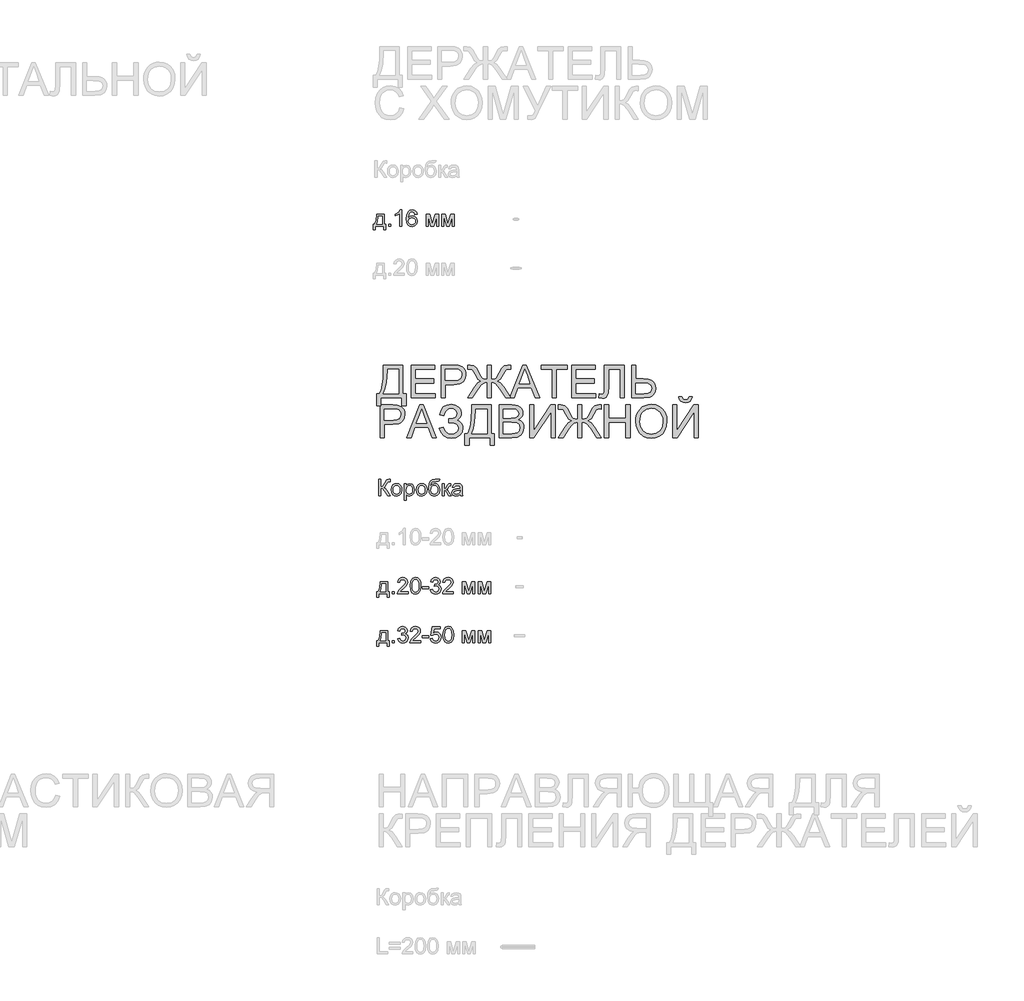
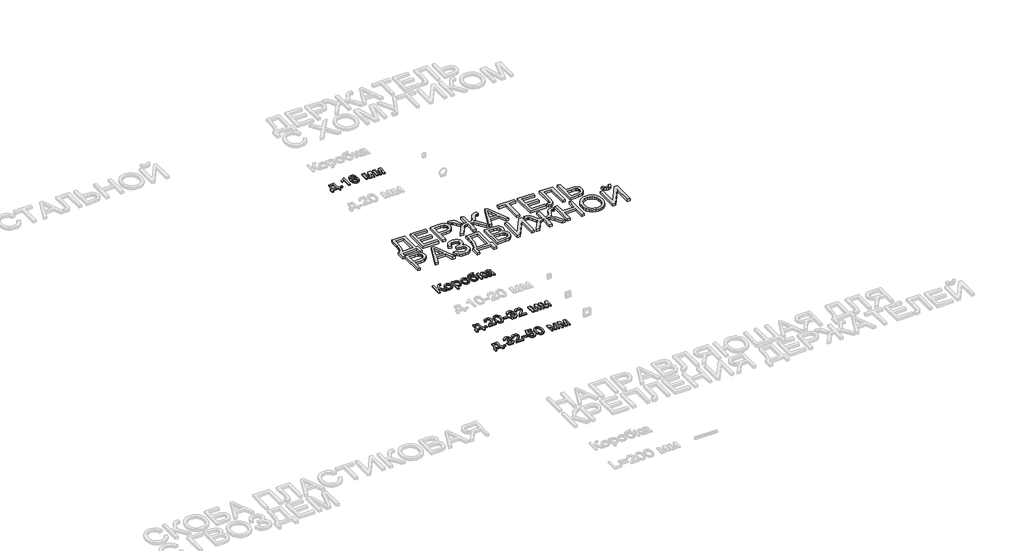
# One storey, part 50 of 98: 5 proxies.
"""IFC4 building model written with IfcOpenShell, lengths in millimetres."""

from ifc_helpers import new_model, si_unit, origin, origin_with_axes, place, context, project, spatial, polyline, outline, extrude, element, save

model = new_model("IFC4")

# Units and contexts
model_context = context("Model", 3, world=origin())
ifc_project = project(units=[si_unit("LENGTHUNIT", "METRE", prefix="MILLI")], contexts=[model_context])

# Site, building, storey
site = spatial("IfcSite", under=ifc_project)
building = spatial("IfcBuilding", under=site)
storey = spatial("IfcBuildingStorey", under=building, Name="Этаж 01", Elevation=0.0)

# Proxies
placement = place(None, origin())
element("IfcBuildingElementProxy", 1, Name="100", ObjectType="100", at=placement, inside=storey, context=model_context, shape_type="SweptSolid", body=[
    extrude(outline(polyline([(16047.255874, -32386.9576813), (16094.3447694, -32386.9576813), (16094.3447694, -32448.1732453), (16103.7625484, -32448.1732453), (16103.7625484, -32481.1354721), (16091.2055097, -32481.1354721), (16091.2055097, -32460.7302841), (16039.4077248, -32460.7302841), (16039.4077248, -32481.1354721), (16026.850686, -32481.1354721), (16026.850686, -32448.1732453), (16034.6988352, -32448.1732453), (16044.3986572, -32424.2241274), (16047.255874, -32386.9576813)]), holes=[polyline([(16058.2432829, -32399.5147201), (16055.3002269, -32428.1236765), (16048.8255038, -32448.1732453), (16081.7877306, -32448.1732453), (16081.7877306, -32399.5147201), (16058.2432829, -32399.5147201)])]), origin_with_axes(), (0.0, 0.0, 1.0), 10.0),
    extrude(outline(polyline([(16121.0284767, -32460.7302841), (16121.0284767, -32448.1732453), (16133.5855155, -32448.1732453), (16133.5855155, -32460.7302841), (16121.0284767, -32460.7302841)])), origin_with_axes(), (0.0, 0.0, 1.0), 10.0),
    extrude(outline(polyline([(16201.0795989, -32460.7302841), (16188.5225601, -32460.7302841), (16188.5225601, -32382.4449955), (16176.627709, -32390.9185441), (16163.4084826, -32397.2583771), (16163.4084826, -32385.3880514), (16181.8148451, -32373.6403531), (16192.986195, -32360.2739739), (16201.0795989, -32360.2739739), (16201.0795989, -32460.7302841)])), origin_with_axes(), (0.0, 0.0, 1.0), 10.0),
    extrude(outline(polyline([(16295.2573897, -32386.9576813), (16282.7003509, -32388.5273111), (16277.9424104, -32378.054937), (16265.3608462, -32372.8310127), (16254.0300807, -32375.8721705), (16245.4584302, -32387.2887751), (16241.8899749, -32409.6682631), (16252.963223, -32399.6496101), (16266.6852214, -32396.3754604), (16278.285767, -32398.6134092), (16288.0223771, -32405.3272556), (16294.6258589, -32415.5850319), (16296.8270195, -32428.4547703), (16292.6822157, -32445.7820123), (16281.2778738, -32458.0447455), (16264.8212859, -32462.2999139), (16250.5750557, -32459.4794853), (16239.2289618, -32451.0181994), (16231.8069425, -32436.0821904), (16229.3329361, -32413.8375924), (16232.0797884, -32388.8277481), (16240.3203451, -32371.7273667), (16251.5714027, -32363.1373221), (16266.1456611, -32360.2739739), (16277.1637269, -32362.0459388), (16285.9867634, -32367.3618337), (16292.1671809, -32375.8047255), (16295.2573897, -32386.9576813)]), holes=[polyline([(16241.8899749, -32428.2585666), (16244.7962427, -32439.1356109), (16252.5217646, -32447.0328111), (16263.8402673, -32449.7428751), (16272.1268092, -32448.3387922), (16278.6413862, -32444.1265433), (16282.8628321, -32437.5046674), (16284.2699807, -32428.8717033), (16282.8812262, -32420.5851613), (16278.7149626, -32414.2667881), (16272.090021, -32410.2660714), (16263.3252325, -32408.9324991), (16248.1317061, -32414.2667881), (16243.4504077, -32420.4318772), (16241.8899749, -32428.2585666)])]), origin_with_axes(), (0.0, 0.0, 1.0), 10.0),
    extrude(outline(polyline([(16350.1944343, -32386.9576813), (16371.8013701, -32386.9576813), (16388.4541618, -32446.0150042), (16406.4068031, -32386.9576813), (16427.1062967, -32386.9576813), (16427.1062967, -32460.7302841), (16414.549258, -32460.7302841), (16414.549258, -32401.3296046), (16396.4985147, -32460.7302841), (16380.0174014, -32460.7302841), (16362.751473, -32398.4846505), (16362.751473, -32460.7302841), (16350.1944343, -32460.7302841), (16350.1944343, -32386.9576813)])), origin_with_axes(), (0.0, 0.0, 1.0), 10.0),
    extrude(outline(polyline([(16445.9418549, -32386.9576813), (16467.5487907, -32386.9576813), (16484.2015824, -32446.0150042), (16502.1542238, -32386.9576813), (16522.8537173, -32386.9576813), (16522.8537173, -32460.7302841), (16510.2966786, -32460.7302841), (16510.2966786, -32401.3296046), (16492.2459353, -32460.7302841), (16475.764822, -32460.7302841), (16458.4988937, -32398.4846505), (16458.4988937, -32460.7302841), (16445.9418549, -32460.7302841), (16445.9418549, -32386.9576813)])), origin_with_axes(), (0.0, 0.0, 1.0), 10.0),
])
element("IfcBuildingElementProxy", 2, Name="100", ObjectType="100", at=placement, inside=storey, context=model_context, shape_type="SweptSolid", body=[
    extrude(outline(polyline([(16059.8107089, -34010.4960013), (16072.3677477, -34010.4960013), (16072.3677477, -34054.445637), (16086.4085771, -34051.1224363), (16096.2065009, -34034.3102292), (16103.1349452, -34020.2693997), (16110.9830944, -34013.31643), (16122.2034953, -34010.4960013), (16130.444052, -34010.6431541), (16130.444052, -34023.2001929), (16127.6726743, -34023.1266165), (16124.9012966, -34023.0530401), (16115.09111, -34026.0696725), (16107.6353683, -34038.9945932), (16098.7448867, -34054.7399426), (16090.0751344, -34059.9393415), (16099.7688249, -34065.6169869), (16109.3276254, -34077.4505245), (16130.444052, -34110.9523115), (16115.875925, -34110.9523115), (16098.0213855, -34082.6499233), (16085.4520839, -34067.8733299), (16072.3677477, -34063.8634161), (16072.3677477, -34110.9523115), (16059.8107089, -34110.9523115), (16059.8107089, -34010.4960013)])), origin_with_axes(), (0.0, 0.0, 1.0), 10.0),
    extrude(outline(polyline([(16136.7225713, -34074.0660101), (16139.4387667, -34056.2789156), (16147.5873529, -34043.7770592), (16157.6550569, -34037.6518239), (16169.7093236, -34035.6100789), (16182.9009588, -34038.096348), (16193.4377123, -34045.5551555), (16200.3446967, -34057.39789), (16202.6470249, -34073.0359405), (16198.5757975, -34095.3786404), (16186.7177345, -34108.0215183), (16169.7093236, -34112.5219413), (16156.3582728, -34110.0448692), (16145.8337821, -34102.6136529), (16139.000374, -34090.522598), (16136.7225713, -34074.0660101)]), holes=[polyline([(16149.2796101, -34074.0414846), (16150.732744, -34085.4059726), (16155.0921456, -34093.5024422), (16161.6527079, -34098.3492875), (16169.7093236, -34099.9649026), (16177.7291511, -34098.3400904), (16184.2774506, -34093.465654), (16188.6368522, -34085.2618855), (16190.0899861, -34073.6490772), (16188.6276552, -34062.615683), (16184.2406624, -34054.629578), (16177.6831658, -34049.7827327), (16169.7093236, -34048.1671176), (16161.6527079, -34049.7766014), (16155.0921456, -34054.6050526), (16150.732744, -34062.683128), (16149.2796101, -34074.0414846)])]), origin_with_axes(), (0.0, 0.0, 1.0), 10.0),
    extrude(outline(polyline([(16216.7736935, -34139.2056487), (16216.7736935, -34037.1797087), (16229.3307323, -34037.1797087), (16229.3307323, -34049.4914928), (16238.0127473, -34039.0804324), (16249.7359203, -34035.6100789), (16265.6529479, -34040.4661212), (16276.0517457, -34054.1513314), (16279.5588873, -34073.5019244), (16275.5980245, -34093.8457987), (16264.0955808, -34107.7026872), (16248.2153413, -34112.5219413), (16237.2892461, -34109.2968425), (16229.3307323, -34101.142125), (16229.3307323, -34139.2056487), (16216.7736935, -34139.2056487)]), holes=[polyline([(16229.3307323, -34074.6546213), (16230.68883, -34085.9118104), (16234.7631231, -34093.784485), (16240.774928, -34098.4197982), (16247.9455612, -34099.9649026), (16255.2326904, -34098.3646159), (16261.3977795, -34093.5637559), (16265.6008313, -34085.4029069), (16267.0018486, -34073.7226536), (16265.6345538, -34062.5267782), (16261.5326696, -34054.5437389), (16255.5300617, -34049.761273), (16248.460596, -34048.1671176), (16241.3635392, -34049.8624405), (16235.1310051, -34054.9484091), (16230.7808005, -34063.2656079), (16229.3307323, -34074.6546213)])]), origin_with_axes(), (0.0, 0.0, 1.0), 10.0),
    extrude(outline(polyline([(16290.5462963, -34074.0660101), (16293.2624917, -34056.2789156), (16301.4110779, -34043.7770592), (16311.4787818, -34037.6518239), (16323.5330485, -34035.6100789), (16336.7246837, -34038.096348), (16347.2614372, -34045.5551555), (16354.1684216, -34057.39789), (16356.4707498, -34073.0359405), (16352.3995224, -34095.3786404), (16340.5414594, -34108.0215183), (16323.5330485, -34112.5219413), (16310.1819978, -34110.0448692), (16299.657507, -34102.6136529), (16292.8240989, -34090.522598), (16290.5462963, -34074.0660101)]), holes=[polyline([(16303.103335, -34074.0414846), (16304.5564689, -34085.4059726), (16308.9158706, -34093.5024422), (16315.4764328, -34098.3492875), (16323.5330485, -34099.9649026), (16331.552876, -34098.3400904), (16338.1011755, -34093.465654), (16342.4605771, -34085.2618855), (16343.913711, -34073.6490772), (16342.4513801, -34062.615683), (16338.0643873, -34054.629578), (16331.5068907, -34049.7827327), (16323.5330485, -34048.1671176), (16315.4764328, -34049.7766014), (16308.9158706, -34054.6050526), (16304.5564689, -34062.683128), (16303.103335, -34074.0414846)])]), origin_with_axes(), (0.0, 0.0, 1.0), 10.0),
    extrude(outline(polyline([(16422.3952033, -34008.9263715), (16433.3826123, -34008.9263715), (16430.1452507, -34018.7242953), (16423.744104, -34022.2682252), (16408.3666366, -34023.0530401), (16387.6548803, -34025.9470451), (16379.7086292, -34035.2176714), (16377.0230906, -34051.6252084), (16387.9001349, -34039.6077299), (16401.9164389, -34035.6100789), (16414.9823811, -34038.1515303), (16425.583514, -34045.7758847), (16432.6100601, -34057.7351152), (16434.9522421, -34073.2811952), (16430.3046662, -34094.888131), (16419.2804691, -34107.9234164), (16401.9164389, -34112.5219413), (16390.5826078, -34111.0412163), (16382.0875994, -34106.5990412), (16371.2350805, -34091.442303), (16367.4581587, -34059.2771539), (16369.8401946, -34035.1839489), (16376.9863024, -34020.4901289), (16389.0742916, -34012.9945332), (16406.2819719, -34010.4960013), (16420.2614878, -34010.2139585), (16422.3952033, -34008.9263715)]), holes=[polyline([(16422.3952033, -34072.8887877), (16421.0340399, -34063.0080905), (16416.9505498, -34055.0955619), (16410.3899876, -34049.8992287), (16401.5976079, -34048.1671176), (16392.4312148, -34049.9973306), (16385.6315293, -34055.4879693), (16381.4192804, -34064.0381601), (16380.0151975, -34075.0470288), (16381.5664332, -34085.7186723), (16386.2201405, -34093.5514931), (16393.1485847, -34098.3615502), (16401.5240315, -34099.9649026), (16409.9423978, -34098.1101642), (16416.6071933, -34092.545949), (16420.9482008, -34083.9221819), (16422.3952033, -34072.8887877)])]), origin_with_axes(), (0.0, 0.0, 1.0), 10.0),
    extrude(outline(polyline([(16450.6485406, -34037.1797087), (16463.2055793, -34037.1797087), (16463.2055793, -34068.5723056), (16471.6178143, -34066.3159627), (16478.5094703, -34053.1703128), (16484.2361667, -34041.8272846), (16489.2884128, -34038.1362019), (16498.4731999, -34037.1797087), (16500.8766956, -34037.1797087), (16500.8766956, -34049.8103239), (16497.4921813, -34049.7367475), (16491.3608147, -34051.0611227), (16487.0443326, -34059.3262048), (16481.9798238, -34068.2657373), (16474.8797013, -34072.6435331), (16482.8014269, -34077.5302322), (16490.5759998, -34087.8247967), (16504.0159553, -34110.9523115), (16489.7421339, -34110.9523115), (16476.5719585, -34088.3153061), (16469.9500826, -34078.7381114), (16463.2055793, -34076.4204549), (16463.2055793, -34110.9523115), (16450.6485406, -34110.9523115), (16450.6485406, -34037.1797087)])), origin_with_axes(), (0.0, 0.0, 1.0), 10.0),
    extrude(outline(polyline([(16558.9529999, -34101.5345324), (16546.7761059, -34110.0448692), (16533.3238876, -34112.5219413), (16522.8300537, -34111.0320193), (16515.0892034, -34106.562253), (16510.3159345, -34099.7748302), (16508.7248449, -34091.3319384), (16511.1283406, -34081.3991245), (16517.4436482, -34074.1886374), (16526.2360278, -34070.0683591), (16537.1008094, -34068.1798982), (16558.8794235, -34063.8634161), (16558.9529999, -34061.0675129), (16555.4949092, -34051.7968867), (16541.6134952, -34048.1671176), (16528.9093037, -34050.5828761), (16522.8515135, -34059.1545266), (16510.2944747, -34057.5848967), (16515.7268655, -34045.3221635), (16526.6652235, -34038.1362019), (16543.232176, -34035.6100789), (16558.4502279, -34037.8418963), (16567.0464038, -34043.4459654), (16570.8969021, -34051.9685649), (16571.5100387, -34062.9559739), (16571.5100387, -34078.5786959), (16572.1477008, -34100.3940982), (16574.6492984, -34110.9523115), (16562.0922596, -34110.9523115), (16558.9529999, -34101.5345324)]), holes=[polyline([(16558.9529999, -34076.4204549), (16538.6949647, -34080.2709531), (16527.8914968, -34082.3065668), (16522.9986663, -34085.6175048), (16521.2818836, -34090.4490216), (16525.0220173, -34097.2425758), (16535.9971634, -34099.9649026), (16548.701355, -34096.9605329), (16556.8928608, -34089.6887322), (16558.8794235, -34079.9766475), (16558.9529999, -34076.4204549)])]), origin_with_axes(), (0.0, 0.0, 1.0), 10.0),
])
element("IfcBuildingElementProxy", 3, Name="100", ObjectType="100", at=placement, inside=storey, context=model_context, shape_type="SweptSolid", body=[
    extrude(outline(polyline([(16069.228488, -34637.1797087), (16116.3173833, -34637.1797087), (16116.3173833, -34698.3952727), (16125.7351624, -34698.3952727), (16125.7351624, -34731.3574995), (16113.1781237, -34731.3574995), (16113.1781237, -34710.9523115), (16061.3803387, -34710.9523115), (16061.3803387, -34731.3574995), (16048.8233, -34731.3574995), (16048.8233, -34698.3952727), (16056.6714492, -34698.3952727), (16066.3712711, -34674.4461548), (16069.228488, -34637.1797087)]), holes=[polyline([(16080.2158969, -34649.7367475), (16077.2728409, -34678.345704), (16070.7981178, -34698.3952727), (16103.7603446, -34698.3952727), (16103.7603446, -34649.7367475), (16080.2158969, -34649.7367475)])]), origin_with_axes(), (0.0, 0.0, 1.0), 10.0),
    extrude(outline(polyline([(16143.0010907, -34710.9523115), (16143.0010907, -34698.3952727), (16155.5581295, -34698.3952727), (16155.5581295, -34710.9523115), (16143.0010907, -34710.9523115)])), origin_with_axes(), (0.0, 0.0, 1.0), 10.0),
    extrude(outline(polyline([(16240.3181412, -34698.3952727), (16240.3181412, -34710.9523115), (16174.3936877, -34710.9523115), (16175.7425883, -34702.2948219), (16183.3700083, -34688.9652309), (16199.0908323, -34674.4093666), (16220.7713445, -34653.4891438), (16226.1914726, -34639.2643734), (16221.0779128, -34627.7496669), (16207.7237964, -34623.0530401), (16193.8055943, -34627.6393023), (16188.5203563, -34640.3189684), (16175.9633175, -34638.7493386), (16179.007541, -34626.6031014), (16185.589563, -34617.7310139), (16195.3660271, -34612.3047545), (16207.9935765, -34610.4960013), (16220.7130965, -34612.5070896), (16230.4711664, -34618.5403543), (16236.6791751, -34627.5534632), (16238.7485113, -34638.5040839), (16236.5166939, -34650.4111978), (16229.0977403, -34662.7229819), (16211.1083108, -34679.9275966), (16196.6628111, -34692.0063887), (16190.9974284, -34698.3952727), (16240.3181412, -34698.3952727)])), origin_with_axes(), (0.0, 0.0, 1.0), 10.0),
    extrude(outline(polyline([(16252.87518, -34661.5334968), (16256.5662626, -34632.6302347), (16267.5291461, -34615.9651803), (16285.8374067, -34610.4960013), (16300.5036356, -34613.7333629), (16310.6326532, -34623.0653028), (16316.5187651, -34637.9277354), (16318.7996335, -34661.5334968), (16315.145339, -34690.3141316), (16304.2192437, -34707.0159741), (16295.9878841, -34711.1454495), (16285.8374067, -34712.5219413), (16272.7898586, -34710.1307084), (16262.8815702, -34702.9570095), (16255.3767775, -34685.9669926), (16252.87518, -34661.5334968)]), holes=[polyline([(16265.4322187, -34661.5089713), (16266.9037467, -34681.2611688), (16271.3183306, -34692.6931018), (16277.8911556, -34698.1469524), (16285.8374067, -34699.9649026), (16293.7836578, -34698.140821), (16300.3564828, -34692.6685763), (16304.7710667, -34681.230512), (16306.2425947, -34661.5089713), (16304.8201177, -34642.201298), (16300.5526865, -34630.6804601), (16293.9921243, -34624.9598951), (16285.6902539, -34623.0530401), (16277.829842, -34624.7330346), (16271.5145344, -34629.7730179), (16266.9527976, -34642.0112256), (16265.4322187, -34661.5089713)])]), origin_with_axes(), (0.0, 0.0, 1.0), 10.0),
    extrude(outline(polyline([(16326.6477827, -34681.1293444), (16326.6477827, -34668.5723056), (16365.8885289, -34668.5723056), (16365.8885289, -34681.1293444), (16326.6477827, -34681.1293444)])), origin_with_axes(), (0.0, 0.0, 1.0), 10.0),
    extrude(outline(polyline([(16376.8759378, -34684.2686041), (16389.4329766, -34682.6989743), (16396.3614208, -34695.9182006), (16409.3231298, -34699.9649026), (16417.9315685, -34698.5730824), (16424.5779698, -34694.3976217), (16430.2433526, -34680.6143096), (16424.6270208, -34667.6280752), (16410.3531994, -34662.48999), (16401.5485569, -34663.8634161), (16402.9465085, -34651.3063773), (16404.9575968, -34651.4535301), (16419.2068927, -34647.8482866), (16423.9525704, -34643.2742871), (16425.534463, -34636.7627758), (16420.9482008, -34626.9403265), (16409.126926, -34623.0530401), (16397.1584985, -34626.9771147), (16391.0026064, -34638.7493386), (16378.4455676, -34637.1797087), (16382.1427817, -34625.9041256), (16388.721738, -34617.4857592), (16397.7225842, -34612.2434408), (16408.6854676, -34610.4960013), (16423.8299431, -34613.9418294), (16434.4249446, -34623.3596084), (16438.0915018, -34636.0270118), (16434.6088856, -34647.6030319), (16424.3081897, -34655.917165), (16437.9933999, -34664.5010782), (16442.8003913, -34680.8350388), (16440.3968956, -34693.0732465), (16433.1864085, -34703.300366), (16422.3032328, -34710.2165475), (16408.8816714, -34712.5219413), (16396.7415655, -34710.5537727), (16386.8578026, -34704.6492666), (16379.9845407, -34695.6177637), (16376.8759378, -34684.2686041)])), origin_with_axes(), (0.0, 0.0, 1.0), 10.0),
    extrude(outline(polyline([(16518.1426239, -34698.3952727), (16518.1426239, -34710.9523115), (16452.2181704, -34710.9523115), (16453.5670711, -34702.2948219), (16461.1944911, -34688.9652309), (16476.915315, -34674.4093666), (16498.5958273, -34653.4891438), (16504.0159553, -34639.2643734), (16498.9023956, -34627.7496669), (16485.5482792, -34623.0530401), (16471.630077, -34627.6393023), (16466.344839, -34640.3189684), (16453.7878003, -34638.7493386), (16456.8320238, -34626.6031014), (16463.4140458, -34617.7310139), (16473.1905098, -34612.3047545), (16485.8180593, -34610.4960013), (16498.5375793, -34612.5070896), (16508.2956492, -34618.5403543), (16514.5036579, -34627.5534632), (16516.5729941, -34638.5040839), (16514.3411767, -34650.4111978), (16506.9222231, -34662.7229819), (16488.9327935, -34679.9275966), (16474.4872938, -34692.0063887), (16468.8219111, -34698.3952727), (16518.1426239, -34698.3952727)])), origin_with_axes(), (0.0, 0.0, 1.0), 10.0),
    extrude(outline(polyline([(16573.0796686, -34637.1797087), (16594.6866044, -34637.1797087), (16611.3393961, -34696.2370317), (16629.2920374, -34637.1797087), (16649.991531, -34637.1797087), (16649.991531, -34710.9523115), (16637.4344922, -34710.9523115), (16637.4344922, -34651.551632), (16619.383749, -34710.9523115), (16602.9026356, -34710.9523115), (16585.6367073, -34648.7066779), (16585.6367073, -34710.9523115), (16573.0796686, -34710.9523115), (16573.0796686, -34637.1797087)])), origin_with_axes(), (0.0, 0.0, 1.0), 10.0),
    extrude(outline(polyline([(16668.8270892, -34637.1797087), (16690.434025, -34637.1797087), (16707.0868167, -34696.2370317), (16725.039458, -34637.1797087), (16745.7389516, -34637.1797087), (16745.7389516, -34710.9523115), (16733.1819129, -34710.9523115), (16733.1819129, -34651.551632), (16715.1311696, -34710.9523115), (16698.6500562, -34710.9523115), (16681.3841279, -34648.7066779), (16681.3841279, -34710.9523115), (16668.8270892, -34710.9523115), (16668.8270892, -34637.1797087)])), origin_with_axes(), (0.0, 0.0, 1.0), 10.0),
])
element("IfcBuildingElementProxy", 4, Name="100", ObjectType="100", at=placement, inside=storey, context=model_context, shape_type="SweptSolid", body=[
    extrude(outline(polyline([(16069.228488, -34937.1797087), (16116.3173833, -34937.1797087), (16116.3173833, -34998.3952727), (16125.7351624, -34998.3952727), (16125.7351624, -35031.3574995), (16113.1781237, -35031.3574995), (16113.1781237, -35010.9523115), (16061.3803387, -35010.9523115), (16061.3803387, -35031.3574995), (16048.8233, -35031.3574995), (16048.8233, -34998.3952727), (16056.6714492, -34998.3952727), (16066.3712711, -34974.4461548), (16069.228488, -34937.1797087)]), holes=[polyline([(16080.2158969, -34949.7367475), (16077.2728409, -34978.345704), (16070.7981178, -34998.3952727), (16103.7603446, -34998.3952727), (16103.7603446, -34949.7367475), (16080.2158969, -34949.7367475)])]), origin_with_axes(), (0.0, 0.0, 1.0), 10.0),
    extrude(outline(polyline([(16143.0010907, -35010.9523115), (16143.0010907, -34998.3952727), (16155.5581295, -34998.3952727), (16155.5581295, -35010.9523115), (16143.0010907, -35010.9523115)])), origin_with_axes(), (0.0, 0.0, 1.0), 10.0),
    extrude(outline(polyline([(16175.9633175, -34984.2686041), (16188.5203563, -34982.6989743), (16195.4488005, -34995.9182006), (16208.4105095, -34999.9649026), (16217.0189482, -34998.5730824), (16223.6653495, -34994.3976217), (16229.3307323, -34980.6143096), (16223.7144005, -34967.6280752), (16209.4405791, -34962.48999), (16200.6359366, -34963.8634161), (16202.0338882, -34951.3063773), (16204.0449765, -34951.4535301), (16218.2942724, -34947.8482866), (16223.0399501, -34943.2742871), (16224.6218427, -34936.7627758), (16220.0355805, -34926.9403265), (16208.2143057, -34923.0530401), (16196.2458782, -34926.9771147), (16190.0899861, -34938.7493386), (16177.5329473, -34937.1797087), (16181.2301614, -34925.9041256), (16187.8091177, -34917.4857592), (16196.8099639, -34912.2434408), (16207.7728473, -34910.4960013), (16222.9173228, -34913.9418294), (16233.5123243, -34923.3596084), (16237.1788815, -34936.0270118), (16233.6962653, -34947.6030319), (16223.3955694, -34955.917165), (16237.0807796, -34964.5010782), (16241.887771, -34980.8350388), (16239.4842753, -34993.0732465), (16232.2737882, -35003.300366), (16221.3906125, -35010.2165475), (16207.9690511, -35012.5219413), (16195.8289452, -35010.5537727), (16185.9451823, -35004.6492666), (16179.0719204, -34995.6177637), (16175.9633175, -34984.2686041)])), origin_with_axes(), (0.0, 0.0, 1.0), 10.0),
    extrude(outline(polyline([(16317.2300036, -34998.3952727), (16317.2300036, -35010.9523115), (16251.3055501, -35010.9523115), (16252.6544508, -35002.2948219), (16260.2818708, -34988.9652309), (16276.0026947, -34974.4093666), (16297.683207, -34953.4891438), (16303.103335, -34939.2643734), (16297.9897753, -34927.7496669), (16284.6356589, -34923.0530401), (16270.7174567, -34927.6393023), (16265.4322187, -34940.3189684), (16252.87518, -34938.7493386), (16255.9194035, -34926.6031014), (16262.5014255, -34917.7310139), (16272.2778895, -34912.3047545), (16284.905439, -34910.4960013), (16297.624959, -34912.5070896), (16307.3830289, -34918.5403543), (16313.5910376, -34927.5534632), (16315.6603738, -34938.5040839), (16313.4285564, -34950.4111978), (16306.0096028, -34962.7229819), (16288.0201732, -34979.9275966), (16273.5746735, -34992.0063887), (16267.9092908, -34998.3952727), (16317.2300036, -34998.3952727)])), origin_with_axes(), (0.0, 0.0, 1.0), 10.0),
    extrude(outline(polyline([(16326.6477827, -34981.1293444), (16326.6477827, -34968.5723056), (16365.8885289, -34968.5723056), (16365.8885289, -34981.1293444), (16326.6477827, -34981.1293444)])), origin_with_axes(), (0.0, 0.0, 1.0), 10.0),
    extrude(outline(polyline([(16376.8759378, -34984.2686041), (16389.4329766, -34982.6989743), (16395.7605469, -34995.6361578), (16408.8816714, -34999.9649026), (16417.8825175, -34998.4596521), (16424.6270208, -34993.9439006), (16428.8392696, -34986.9388143), (16430.2433526, -34977.9655593), (16424.98264, -34963.0540757), (16418.3760925, -34958.9521915), (16409.0778751, -34957.5848967), (16398.053678, -34959.7676632), (16391.0026064, -34965.433046), (16378.4455676, -34963.8634161), (16389.4329766, -34912.0656312), (16438.0915018, -34912.0656312), (16438.0915018, -34924.62267), (16399.5865196, -34924.62267), (16394.2154425, -34952.287396), (16403.1856318, -34946.8427425), (16412.5850168, -34945.027858), (16424.3173868, -34947.2780695), (16434.0570626, -34954.0287041), (16440.6145591, -34964.3171372), (16442.8003913, -34977.1807443), (16440.8322227, -34989.7377831), (16434.9277166, -35000.4799374), (16423.6214766, -35009.5114403), (16408.8326204, -35012.5219413), (16396.4993766, -35010.5874952), (16386.6738616, -35004.7841567), (16379.9385554, -34995.7863762), (16376.8759378, -34984.2686041)])), origin_with_axes(), (0.0, 0.0, 1.0), 10.0),
    extrude(outline(polyline([(16453.7878003, -34961.5334968), (16457.4788829, -34932.6302347), (16468.4417664, -34915.9651803), (16486.750027, -34910.4960013), (16501.4162559, -34913.7333629), (16511.5452735, -34923.0653028), (16517.4313854, -34937.9277354), (16519.7122538, -34961.5334968), (16516.0579593, -34990.3141316), (16505.131864, -35007.0159741), (16496.9005044, -35011.1454495), (16486.750027, -35012.5219413), (16473.7024789, -35010.1307084), (16463.7941905, -35002.9570095), (16456.2893978, -34985.9669926), (16453.7878003, -34961.5334968)]), holes=[polyline([(16466.344839, -34961.5089713), (16467.816367, -34981.2611688), (16472.2309509, -34992.6931018), (16478.8037759, -34998.1469524), (16486.750027, -34999.9649026), (16494.6962781, -34998.140821), (16501.2691031, -34992.6685763), (16505.683687, -34981.230512), (16507.155215, -34961.5089713), (16505.732738, -34942.201298), (16501.4653068, -34930.6804601), (16494.9047446, -34924.9598951), (16486.6028742, -34923.0530401), (16478.7424623, -34924.7330346), (16472.4271547, -34929.7730179), (16467.8654179, -34942.0112256), (16466.344839, -34961.5089713)])]), origin_with_axes(), (0.0, 0.0, 1.0), 10.0),
    extrude(outline(polyline([(16573.0796686, -34937.1797087), (16594.6866044, -34937.1797087), (16611.3393961, -34996.2370317), (16629.2920374, -34937.1797087), (16649.991531, -34937.1797087), (16649.991531, -35010.9523115), (16637.4344922, -35010.9523115), (16637.4344922, -34951.551632), (16619.383749, -35010.9523115), (16602.9026356, -35010.9523115), (16585.6367073, -34948.7066779), (16585.6367073, -35010.9523115), (16573.0796686, -35010.9523115), (16573.0796686, -34937.1797087)])), origin_with_axes(), (0.0, 0.0, 1.0), 10.0),
    extrude(outline(polyline([(16668.8270892, -34937.1797087), (16690.434025, -34937.1797087), (16707.0868167, -34996.2370317), (16725.039458, -34937.1797087), (16745.7389516, -34937.1797087), (16745.7389516, -35010.9523115), (16733.1819129, -35010.9523115), (16733.1819129, -34951.551632), (16715.1311696, -35010.9523115), (16698.6500562, -35010.9523115), (16681.3841279, -34948.7066779), (16681.3841279, -35010.9523115), (16668.8270892, -35010.9523115), (16668.8270892, -34937.1797087)])), origin_with_axes(), (0.0, 0.0, 1.0), 10.0),
])
element("IfcBuildingElementProxy", 5, Name="200", ObjectType="200", at=placement, inside=storey, context=model_context, shape_type="SweptSolid", body=[
    extrude(outline(polyline([(16089.633676, -33310.0396912), (16208.9255443, -33310.0396912), (16208.9255443, -33485.838234), (16227.7611024, -33485.838234), (16227.7611024, -33558.0412069), (16202.6470249, -33558.0412069), (16202.6470249, -33510.9523115), (16073.9373775, -33510.9523115), (16073.9373775, -33558.0412069), (16048.8233, -33558.0412069), (16048.8233, -33485.838234), (16064.5195984, -33485.838234), (16075.5070073, -33463.0571414), (16083.3551566, -33431.0115539), (16088.0640461, -33389.7014716), (16089.633676, -33339.1268943), (16089.633676, -33310.0396912)]), holes=[polyline([(16183.8114667, -33335.1537687), (16114.7477535, -33335.1537687), (16114.7477535, -33345.2582609), (16109.6464565, -33414.0767194), (16102.0926129, -33453.8447631), (16089.633676, -33485.838234), (16183.8114667, -33485.838234), (16183.8114667, -33335.1537687)])]), origin_with_axes(), (0.0, 0.0, 1.0), 20.0),
    extrude(outline(polyline([(16259.1536993, -33510.9523115), (16259.1536993, -33310.0396912), (16403.5596452, -33310.0396912), (16403.5596452, -33335.1537687), (16284.2677769, -33335.1537687), (16284.2677769, -33394.7997029), (16397.2811258, -33394.7997029), (16397.2811258, -33419.9137804), (16284.2677769, -33419.9137804), (16284.2677769, -33485.838234), (16406.6989049, -33485.838234), (16406.6989049, -33510.9523115), (16259.1536993, -33510.9523115)])), origin_with_axes(), (0.0, 0.0, 1.0), 20.0),
    extrude(outline(polyline([(16444.3700212, -33510.9523115), (16444.3700212, -33310.0396912), (16518.829337, -33310.0396912), (16548.8485078, -33311.9526776), (16573.2513468, -33321.3459312), (16582.1234343, -33329.672327), (16589.0702726, -33340.7701005), (16593.558433, -33353.8605682), (16595.0544864, -33368.1650464), (16591.0139158, -33391.8443842), (16578.8922041, -33411.5751219), (16569.1847179, -33419.3435633), (16556.2245418, -33424.8924501), (16520.5461196, -33429.3315595), (16469.4840987, -33429.3315595), (16469.4840987, -33510.9523115), (16444.3700212, -33510.9523115)]), holes=[polyline([(16469.4840987, -33404.217482), (16522.0176476, -33404.217482), (16544.2867711, -33401.9120881), (16559.0020509, -33394.9959066), (16567.2058194, -33383.8981331), (16569.9404089, -33369.0479632), (16568.3278595, -33357.7662487), (16563.4902112, -33348.2503678), (16556.0283381, -33341.0889316), (16546.543114, -33336.8705514), (16521.4290364, -33335.1537687), (16469.4840987, -33335.1537687), (16469.4840987, -33404.217482)])]), origin_with_axes(), (0.0, 0.0, 1.0), 20.0),
    extrude(outline(polyline([(16748.8782113, -33310.0396912), (16748.8782113, -33397.9389626), (16767.2477856, -33396.2467054), (16778.7992803, -33391.1699339), (16787.8369146, -33379.4222355), (16798.664908, -33357.7171978), (16812.8896785, -33329.6355388), (16828.8067061, -33315.6805484), (16851.4437116, -33310.0396912), (16868.1700796, -33310.3339968), (16868.1700796, -33335.1537687), (16862.6763752, -33335.0066159), (16857.0355179, -33334.8594631), (16845.3000823, -33336.3923048), (16837.0717883, -33340.9908297), (16821.8659992, -33366.6444675), (16805.8018187, -33395.3637886), (16786.1078692, -33408.0434547), (16805.9612342, -33419.7666276), (16825.2014626, -33443.9487374), (16868.1700796, -33510.9523115), (16838.9847747, -33510.9523115), (16802.5399317, -33454.1022805), (16777.4503796, -33425.2112811), (16765.2183033, -33418.8837108), (16748.8782113, -33416.7745207), (16748.8782113, -33510.9523115), (16723.7641338, -33510.9523115), (16723.7641338, -33416.7745207), (16710.0114785, -33418.4115956), (16697.9878687, -33423.3228202), (16685.8906824, -33433.6419102), (16671.9172979, -33451.5025811), (16670.1024134, -33454.1022805), (16633.6575704, -33510.9523115), (16604.4722655, -33510.9523115), (16647.3918316, -33443.9487374), (16666.8527891, -33419.6930512), (16686.5835268, -33408.0434547), (16667.9441724, -33396.6881638), (16650.7763459, -33366.6444675), (16635.1290984, -33340.4512695), (16627.0479572, -33336.4781439), (16615.75398, -33335.1537687), (16604.4722655, -33335.4480743), (16604.4722655, -33310.3339968), (16620.3157167, -33310.0396912), (16643.8601644, -33315.5579211), (16659.4828865, -33329.3902841), (16673.9774371, -33357.7662487), (16684.8115619, -33379.7104097), (16693.7694884, -33391.2925612), (16705.2780635, -33396.1547349), (16723.7641338, -33397.9389626), (16723.7641338, -33310.0396912), (16748.8782113, -33310.0396912)])), origin_with_axes(), (0.0, 0.0, 1.0), 20.0),
    extrude(outline(polyline([(16863.6083429, -33510.9523115), (16943.8066178, -33310.0396912), (16965.1928245, -33310.0396912), (17045.3910994, -33510.9523115), (17018.8545448, -33510.9523115), (16995.8496574, -33448.1671176), (16913.100734, -33448.1671176), (16890.1448975, -33510.9523115), (16863.6083429, -33510.9523115)]), holes=[polyline([(16922.3223093, -33423.0530401), (16986.677133, -33423.0530401), (16968.5773388, -33373.6587509), (16954.4997212, -33335.1537687), (16941.9917333, -33369.3422688), (16922.3223093, -33423.0530401)])]), origin_with_axes(), (0.0, 0.0, 1.0), 20.0),
    extrude(outline(polyline([(17122.4501147, -33510.9523115), (17122.4501147, -33335.1537687), (17056.5256612, -33335.1537687), (17056.5256612, -33310.0396912), (17213.4886458, -33310.0396912), (17213.4886458, -33335.1537687), (17147.5641922, -33335.1537687), (17147.5641922, -33510.9523115), (17122.4501147, -33510.9523115)])), origin_with_axes(), (0.0, 0.0, 1.0), 20.0),
    extrude(outline(polyline([(17241.741983, -33510.9523115), (17241.741983, -33310.0396912), (17386.1479288, -33310.0396912), (17386.1479288, -33335.1537687), (17266.8560605, -33335.1537687), (17266.8560605, -33394.7997029), (17379.8694094, -33394.7997029), (17379.8694094, -33419.9137804), (17266.8560605, -33419.9137804), (17266.8560605, -33485.838234), (17389.2871885, -33485.838234), (17389.2871885, -33510.9523115), (17241.741983, -33510.9523115)])), origin_with_axes(), (0.0, 0.0, 1.0), 20.0),
    extrude(outline(polyline([(17442.6546033, -33310.0396912), (17565.0857313, -33310.0396912), (17565.0857313, -33510.9523115), (17539.9716537, -33510.9523115), (17539.9716537, -33335.1537687), (17467.7686808, -33335.1537687), (17467.7686808, -33437.670218), (17464.8501503, -33483.4102128), (17460.3313332, -33496.3351335), (17452.6119426, -33506.0226928), (17442.0414666, -33512.0743516), (17428.9693931, -33514.0915712), (17408.1227467, -33510.9523115), (17411.2620064, -33485.838234), (17423.2794849, -33488.9774936), (17431.7714276, -33487.2913678), (17437.8230864, -33482.2329904), (17441.4467241, -33470.920619), (17442.6546033, -33450.4725115), (17442.6546033, -33310.0396912)])), origin_with_axes(), (0.0, 0.0, 1.0), 20.0),
    extrude(outline(polyline([(17609.035367, -33310.0396912), (17634.1494445, -33310.0396912), (17634.1494445, -33394.7997029), (17681.189289, -33394.7997029), (17709.5713849, -33396.7678716), (17728.891321, -33402.6723776), (17741.5955126, -33411.9675293), (17750.1303749, -33424.1076352), (17754.9680231, -33437.8725531), (17756.5805725, -33452.0421413), (17752.7055488, -33474.0905356), (17741.0804778, -33493.2449248), (17731.6626987, -33500.9919065), (17718.9094562, -33506.5254648), (17683.3965809, -33510.9523115), (17609.035367, -33510.9523115), (17609.035367, -33310.0396912)]), holes=[polyline([(17634.1494445, -33485.838234), (17683.34753, -33485.838234), (17708.0937255, -33483.3550305), (17722.3920724, -33475.9054201), (17729.1978893, -33464.948668), (17731.466495, -33451.9440395), (17729.8232887, -33441.4103517), (17724.89367, -33432.568921), (17717.2233304, -33425.9899647), (17707.3579616, -33422.2436997), (17670.20188, -33419.9137804), (17634.1494445, -33419.9137804), (17634.1494445, -33485.838234)])]), origin_with_axes(), (0.0, 0.0, 1.0), 20.0),
    extrude(outline(polyline([(16070.7981178, -33754.9019472), (16070.7981178, -33553.9893269), (16145.2574336, -33553.9893269), (16175.2766044, -33555.9023133), (16199.6794435, -33565.2955669), (16208.5515309, -33573.6219627), (16215.4983692, -33584.7197362), (16219.9865296, -33597.8102039), (16221.482583, -33612.1146821), (16217.4420125, -33635.7940199), (16205.3203007, -33655.5247575), (16195.6128146, -33663.293199), (16182.6526384, -33668.8420858), (16146.9742163, -33673.2811952), (16095.9121953, -33673.2811952), (16095.9121953, -33754.9019472), (16070.7981178, -33754.9019472)]), holes=[polyline([(16095.9121953, -33648.1671176), (16148.4457443, -33648.1671176), (16170.7148677, -33645.8617238), (16185.4301475, -33638.9455423), (16193.633916, -33627.8477688), (16196.3685055, -33612.9975989), (16194.7559561, -33601.7158844), (16189.9183078, -33592.2000034), (16182.4564347, -33585.0385673), (16172.9712106, -33580.8201871), (16147.8571331, -33579.1034044), (16095.9121953, -33579.1034044), (16095.9121953, -33648.1671176)])]), origin_with_axes(), (0.0, 0.0, 1.0), 20.0),
    extrude(outline(polyline([(16232.6171448, -33754.9019472), (16312.8154197, -33553.9893269), (16334.2016264, -33553.9893269), (16414.3999013, -33754.9019472), (16387.8633467, -33754.9019472), (16364.8584593, -33692.1167533), (16282.1095358, -33692.1167533), (16259.1536993, -33754.9019472), (16232.6171448, -33754.9019472)]), holes=[polyline([(16291.3311112, -33667.0026758), (16355.6859349, -33667.0026758), (16337.5861407, -33617.6083866), (16323.508523, -33579.1034044), (16311.0005352, -33613.2919045), (16291.3311112, -33667.0026758)])]), origin_with_axes(), (0.0, 0.0, 1.0), 20.0),
    extrude(outline(polyline([(16431.8129824, -33698.3952727), (16456.9270599, -33692.1167533), (16462.230692, -33705.7099931), (16472.3535783, -33719.3154955), (16486.9278367, -33729.5242209), (16505.5855852, -33732.9271293), (16524.4885884, -33730.3703495), (16538.9156939, -33722.7000099), (16548.0575615, -33711.412164), (16551.1048507, -33698.0028653), (16547.7755187, -33683.9559044), (16537.7875225, -33673.1095169), (16522.0605672, -33666.1749413), (16501.5143578, -33663.8634161), (16488.3196569, -33663.8634161), (16488.3196569, -33638.7493386), (16516.7446724, -33636.7137249), (16526.0091673, -33633.0962186), (16534.133228, -33626.3149271), (16539.7986107, -33617.381526), (16541.6870716, -33607.3076907), (16539.1732113, -33595.4802846), (16531.6316304, -33585.3083474), (16519.7980929, -33578.3001954), (16504.4083628, -33575.9641447), (16490.496292, -33577.7606351), (16478.7792505, -33583.1501064), (16469.8029298, -33591.507159), (16464.1130216, -33602.2063937), (16460.0663196, -33619.9137804), (16434.9522421, -33613.635261), (16442.7544061, -33586.1667387), (16456.8902717, -33566.5463656), (16477.3598391, -33554.7741418), (16504.1631081, -33550.8500672), (16530.019081, -33554.927426), (16549.9031029, -33567.1595023), (16562.5766376, -33584.8484949), (16566.8011492, -33605.2966025), (16565.1579429, -33618.5127632), (16560.2283242, -33630.1531626), (16552.012293, -33640.2178009), (16540.5098493, -33648.7066779), (16554.4771023, -33655.1384815), (16565.9672833, -33665.9971317), (16573.656017, -33680.3506609), (16576.2189282, -33697.2671013), (16571.3015722, -33721.0506723), (16556.5495042, -33740.6036003), (16533.6795069, -33753.6818052), (16504.4083628, -33758.0412069), (16478.938666, -33754.313336), (16458.349537, -33743.1297233), (16442.6409758, -33724.4903689), (16431.8129824, -33698.3952727)])), origin_with_axes(), (0.0, 0.0, 1.0), 20.0),
    extrude(outline(polyline([(16629.586343, -33553.9893269), (16748.8782113, -33553.9893269), (16748.8782113, -33729.7878696), (16767.7137695, -33729.7878696), (16767.7137695, -33801.9908426), (16742.5996919, -33801.9908426), (16742.5996919, -33754.9019472), (16613.8900446, -33754.9019472), (16613.8900446, -33801.9908426), (16588.775967, -33801.9908426), (16588.775967, -33729.7878696), (16604.4722655, -33729.7878696), (16615.4596744, -33707.0067771), (16623.3078236, -33674.9611896), (16628.0167132, -33633.6511073), (16629.586343, -33583.07653), (16629.586343, -33553.9893269)]), holes=[polyline([(16723.7641338, -33579.1034044), (16654.7004206, -33579.1034044), (16654.7004206, -33589.2078966), (16649.5991236, -33658.0263551), (16642.0452799, -33697.7943988), (16629.586343, -33729.7878696), (16723.7641338, -33729.7878696), (16723.7641338, -33579.1034044)])]), origin_with_axes(), (0.0, 0.0, 1.0), 20.0),
    extrude(outline(polyline([(16799.1063664, -33754.9019472), (16799.1063664, -33553.9893269), (16875.7729742, -33553.9893269), (16896.8587439, -33555.4669862), (16913.3214632, -33559.8999643), (16925.9398156, -33567.3986256), (16935.4924847, -33578.0733348), (16941.5073554, -33590.6303736), (16943.5123122, -33603.7760236), (16941.8261864, -33615.8732098), (16936.767809, -33627.2468949), (16928.3003917, -33637.1981028), (16916.3871465, -33645.027858), (16930.6180483, -33652.4590743), (16941.133342, -33663.7653142), (16947.6264592, -33678.1985512), (16949.7908316, -33695.0107584), (16943.8801942, -33722.0132968), (16929.2384908, -33741.2412624), (16907.3863003, -33751.4438564), (16875.184363, -33754.9019472), (16799.1063664, -33754.9019472)]), holes=[polyline([(16824.2204439, -33635.6100789), (16870.083066, -33635.6100789), (16896.8648752, -33633.4518378), (16912.9781066, -33624.1566861), (16918.3982347, -33607.7982), (16913.3459886, -33591.4151885), (16898.8759635, -33581.7276293), (16866.6004498, -33579.1034044), (16824.2204439, -33579.1034044), (16824.2204439, -33635.6100789)]), polyline([(16824.2204439, -33729.7878696), (16875.7239233, -33729.7878696), (16894.3632777, -33728.806851), (16910.1331525, -33723.337672), (16920.5810012, -33712.1785848), (16924.6767541, -33695.256013), (16919.8697627, -33675.7337418), (16913.5728492, -33668.6765389), (16904.2960915, -33664.0841453), (16873.2713766, -33660.7241564), (16824.2204439, -33660.7241564), (16824.2204439, -33729.7878696)])]), origin_with_axes(), (0.0, 0.0, 1.0), 20.0),
    extrude(outline(polyline([(16984.3226882, -33553.9893269), (17009.4367658, -33553.9893269), (17009.4367658, -33713.1105525), (17114.6019655, -33553.9893269), (17141.2856728, -33553.9893269), (17141.2856728, -33754.9019472), (17116.1715953, -33754.9019472), (17116.1715953, -33596.2221799), (17011.2516503, -33754.9019472), (16984.3226882, -33754.9019472), (16984.3226882, -33553.9893269)])), origin_with_axes(), (0.0, 0.0, 1.0), 20.0),
    extrude(outline(polyline([(17304.5271768, -33553.9893269), (17304.5271768, -33641.8885983), (17322.8967511, -33640.1963411), (17334.4482458, -33635.1195695), (17343.4858801, -33623.3718712), (17354.3138735, -33601.6668335), (17368.538644, -33573.5851745), (17384.4556717, -33559.6301841), (17407.0926771, -33553.9893269), (17423.8190451, -33554.2836325), (17423.8190451, -33579.1034044), (17418.3253407, -33578.9562516), (17412.6844834, -33578.8090988), (17400.9490478, -33580.3419405), (17392.7207538, -33584.9404654), (17377.5149647, -33610.5941032), (17361.4507842, -33639.3134243), (17341.7568347, -33651.9930904), (17361.6101998, -33663.7162633), (17380.8504281, -33687.8983731), (17423.8190451, -33754.9019472), (17394.6337402, -33754.9019472), (17358.1888972, -33698.0519162), (17333.0993451, -33669.1609168), (17320.8672688, -33662.8333465), (17304.5271768, -33660.7241564), (17304.5271768, -33754.9019472), (17279.4130993, -33754.9019472), (17279.4130993, -33660.7241564), (17265.660444, -33662.3612313), (17253.6368342, -33667.2724559), (17241.5396479, -33677.5915459), (17227.5662634, -33695.4522168), (17225.7513789, -33698.0519162), (17189.3065359, -33754.9019472), (17160.121231, -33754.9019472), (17203.0407971, -33687.8983731), (17222.5017546, -33663.6426869), (17242.2324923, -33651.9930904), (17223.5931379, -33640.6377995), (17206.4253115, -33610.5941032), (17190.7780639, -33584.4009051), (17182.6969228, -33580.4277796), (17171.4029455, -33579.1034044), (17160.121231, -33579.39771), (17160.121231, -33554.2836325), (17175.9646823, -33553.9893269), (17199.5091299, -33559.5075568), (17215.131852, -33573.3399198), (17229.6264026, -33601.7158844), (17240.4605274, -33623.6600454), (17249.418454, -33635.2421969), (17260.927029, -33640.1043706), (17279.4130993, -33641.8885983), (17279.4130993, -33553.9893269), (17304.5271768, -33553.9893269)])), origin_with_axes(), (0.0, 0.0, 1.0), 20.0),
    extrude(outline(polyline([(17442.6546033, -33754.9019472), (17442.6546033, -33553.9893269), (17467.7686808, -33553.9893269), (17467.7686808, -33635.6100789), (17574.5035104, -33635.6100789), (17574.5035104, -33553.9893269), (17599.6175879, -33553.9893269), (17599.6175879, -33754.9019472), (17574.5035104, -33754.9019472), (17574.5035104, -33660.7241564), (17467.7686808, -33660.7241564), (17467.7686808, -33754.9019472), (17442.6546033, -33754.9019472)])), origin_with_axes(), (0.0, 0.0, 1.0), 20.0),
    extrude(outline(polyline([(17634.1494445, -33657.0943874), (17635.8233076, -33633.5284799), (17640.8448968, -33612.6665051), (17649.2142122, -33594.508463), (17660.9312538, -33579.0543535), (17675.29398, -33566.7149782), (17691.6003494, -33557.9011388), (17709.8503621, -33552.6128351), (17730.0440179, -33550.8500672), (17756.3966315, -33554.1610051), (17780.0269183, -33564.093819), (17799.6472914, -33579.949533), (17813.9701638, -33601.0291713), (17822.7257552, -33626.3149271), (17825.6442857, -33654.7889936), (17822.5724711, -33683.6432047), (17813.3570271, -33709.2845798), (17798.5068572, -33730.4010063), (17778.5308649, -33745.6803718), (17755.1029132, -33754.9509981), (17729.8968651, -33758.0412069), (17703.1395813, -33754.6260357), (17679.3744045, -33744.3805221), (17659.8030823, -33728.2305025), (17645.6273628, -33707.1018133), (17637.0189241, -33682.7909448), (17634.1494445, -33657.0943874)]), holes=[polyline([(17659.263522, -33657.3396421), (17664.2851113, -33688.7690272), (17679.349879, -33712.7181451), (17701.9930158, -33727.8748833), (17729.7497123, -33732.9271293), (17757.9110791, -33727.8258323), (17780.5910041, -33712.5219413), (17789.3144059, -33701.2494239), (17795.5454072, -33687.8370595), (17800.5302082, -33654.5927898), (17798.3964926, -33632.3604546), (17791.9953459, -33613.1447517), (17781.4923149, -33597.4300591), (17767.0529466, -33585.7007549), (17749.6337342, -33578.3982973), (17730.1911707, -33575.9641447), (17703.1763695, -33580.6546402), (17680.2082703, -33594.7261265), (17671.0449429, -33605.6752144), (17664.4997091, -33619.7604963), (17659.263522, -33657.3396421)])]), origin_with_axes(), (0.0, 0.0, 1.0), 20.0),
    extrude(outline(polyline([(17960.6324525, -33503.7611718), (17979.4680107, -33503.7611718), (17975.4151773, -33519.8437464), (17967.2788539, -33531.695678), (17955.4269223, -33538.9981356), (17940.2272645, -33541.4322881), (17923.7338884, -33539.0165297), (17910.9438577, -33531.7692544), (17902.2005289, -33519.9357169), (17897.8472587, -33503.7611718), (17916.6828168, -33503.7611718), (17923.7461511, -33517.9123659), (17937.9709216, -33522.59673), (17953.5691182, -33518.0595187), (17960.6324525, -33503.7611718)])), origin_with_axes(), (0.0, 0.0, 1.0), 20.0),
    extrude(outline(polyline([(17860.1761423, -33553.9893269), (17885.2902199, -33553.9893269), (17885.2902199, -33713.1105525), (17990.4554196, -33553.9893269), (18017.139127, -33553.9893269), (18017.139127, -33754.9019472), (17992.0250494, -33754.9019472), (17992.0250494, -33596.2221799), (17887.1051044, -33754.9019472), (17860.1761423, -33754.9019472), (17860.1761423, -33553.9893269)])), origin_with_axes(), (0.0, 0.0, 1.0), 20.0),
])

save(model, "model.ifc")
